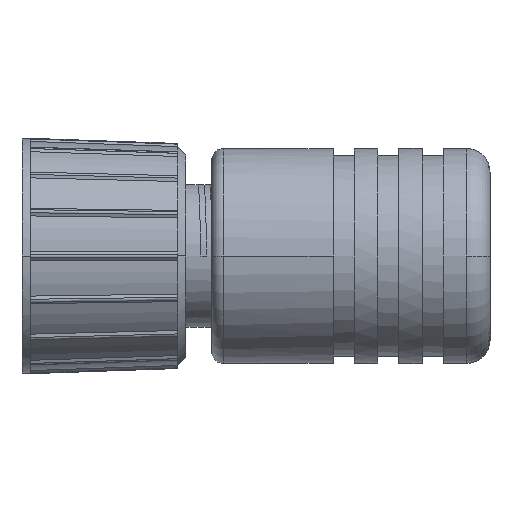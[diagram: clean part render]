
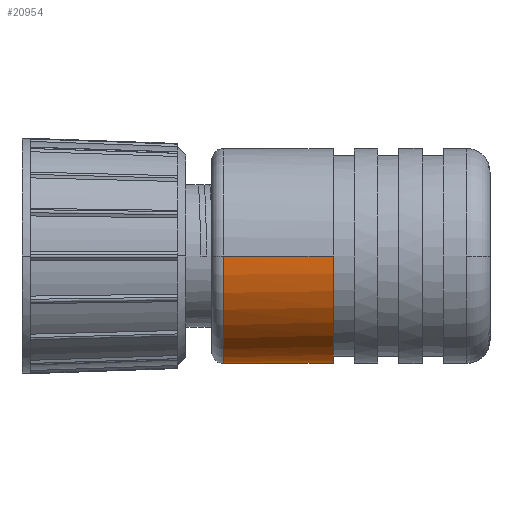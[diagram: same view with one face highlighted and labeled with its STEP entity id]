
A CAD part, left-side view. The second image highlights one B-rep face of the part: STEP entity #20954.
In plain terms, the highlighted cylindrical face has radius 4.6 mm (diameter 9.2 mm), a partial arc.
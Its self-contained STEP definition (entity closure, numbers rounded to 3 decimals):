
#18368=CARTESIAN_POINT('',(-33.5,4.,0.));
#18369=CARTESIAN_POINT('',(-33.5,4.,-0.089));
#18370=CARTESIAN_POINT('',(-33.505,3.994,
-0.269));
#18371=CARTESIAN_POINT('',(-33.529,3.967,
-0.537));
#18372=CARTESIAN_POINT('',(-33.569,3.921,
-0.807));
#18373=CARTESIAN_POINT('',(-33.625,3.856,
-1.076));
#18374=CARTESIAN_POINT('',(-33.698,3.771,
-1.345));
#18375=CARTESIAN_POINT('',(-33.789,3.664,
-1.614));
#18376=CARTESIAN_POINT('',(-33.9,3.534,
-1.883));
#18377=CARTESIAN_POINT('',(-34.029,3.379,
-2.148));
#18378=CARTESIAN_POINT('',(-34.178,3.198,
-2.409));
#18379=CARTESIAN_POINT('',(-34.346,2.99,
-2.664));
#18380=CARTESIAN_POINT('',(-34.532,2.753,
-2.909));
#18381=CARTESIAN_POINT('',(-34.731,2.49,
-3.137));
#18382=CARTESIAN_POINT('',(-34.868,2.3,
-3.275));
#18383=CARTESIAN_POINT('',(-34.938,2.2,-3.341));
#18498=CARTESIAN_POINT('',(-38.1,2.2,0.));
#18499=DIRECTION('',(0.,1.,0.));
#18500=DIRECTION('',(0.687,0.,-0.726));
#18501=AXIS2_PLACEMENT_3D('',#18498,#18499,#18500);
#18517=DIRECTION('',(0.,-1.,0.));
#18518=VECTOR('',#18517,4.7);
#18519=CARTESIAN_POINT('',(-42.7,6.9,0.));
#18520=LINE('',#18519,#18518);
#18521=DIRECTION('',(0.,1.,0.));
#18522=VECTOR('',#18521,2.9);
#18523=CARTESIAN_POINT('',(-33.5,4.,0.));
#18524=LINE('',#18523,#18522);
#18525=CARTESIAN_POINT('',(-38.1,6.9,0.));
#18526=DIRECTION('',(0.,-1.,0.));
#18527=DIRECTION('',(-1.,0.,0.));
#18528=AXIS2_PLACEMENT_3D('',#18525,#18526,#18527);
#19994=CARTESIAN_POINT('',(-33.5,6.9,0.));
#19995=CARTESIAN_POINT('',(-42.7,6.9,0.));
#19996=VERTEX_POINT('',#19994);
#19997=VERTEX_POINT('',#19995);
#19998=CARTESIAN_POINT('',(-33.5,4.,0.));
#19999=VERTEX_POINT('',#19998);
#20001=CARTESIAN_POINT('',(-42.7,2.2,0.));
#20002=VERTEX_POINT('',#20001);
#20058=CARTESIAN_POINT('',(-34.938,2.2,-3.341));
#20059=VERTEX_POINT('',#20058);
#20939=CARTESIAN_POINT('',(-38.1,6.994,0.));
#20940=DIRECTION('',(0.,-1.,0.));
#20941=DIRECTION('',(1.,0.,0.));
#20942=AXIS2_PLACEMENT_3D('',#20939,#20940,#20941);
#20943=CYLINDRICAL_SURFACE('',#20942,4.6);
#20945=ORIENTED_EDGE('',*,*,#20944,.F.);
#20947=ORIENTED_EDGE('',*,*,#20946,.T.);
#20948=ORIENTED_EDGE('',*,*,#20923,.F.);
#20949=ORIENTED_EDGE('',*,*,#20691,.F.);
#20951=ORIENTED_EDGE('',*,*,#20950,.T.);
#20952=EDGE_LOOP('',(#20945,#20947,#20948,#20949,#20951));
#20953=FACE_OUTER_BOUND('',#20952,.F.);
#20954=ADVANCED_FACE('',(#20953),#20943,.T.);
#18384=B_SPLINE_CURVE_WITH_KNOTS('',3,(#18368,#18369,#18370,#18371,#18372,
#18373,#18374,#18375,#18376,#18377,#18378,#18379,#18380,#18381,#18382,#18383),
.UNSPECIFIED.,.F.,.F.,(4,1,1,1,1,1,1,1,1,1,1,1,1,4),(0.,0.077,
0.154,0.231,0.308,0.385,
0.462,0.538,0.615,0.692,
0.769,0.846,0.923,1.),.UNSPECIFIED.);
#18502=CIRCLE('',#18501,4.6);
#18529=CIRCLE('',#18528,4.6);
#20691=EDGE_CURVE('',#19999,#20059,#18384,.T.);
#20923=EDGE_CURVE('',#20059,#20002,#18502,.T.);
#20944=EDGE_CURVE('',#19997,#19996,#18529,.T.);
#20946=EDGE_CURVE('',#19997,#20002,#18520,.T.);
#20950=EDGE_CURVE('',#19999,#19996,#18524,.T.);
